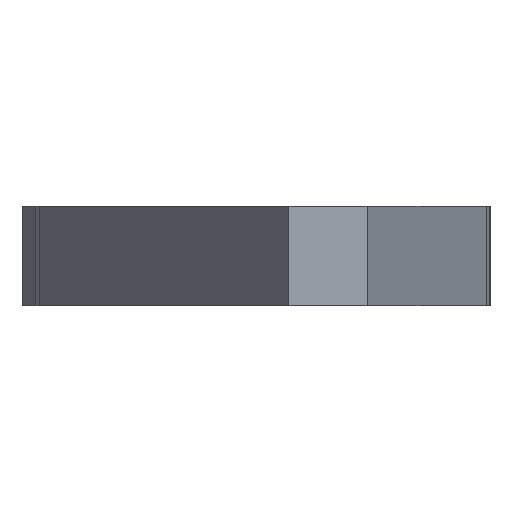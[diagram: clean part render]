
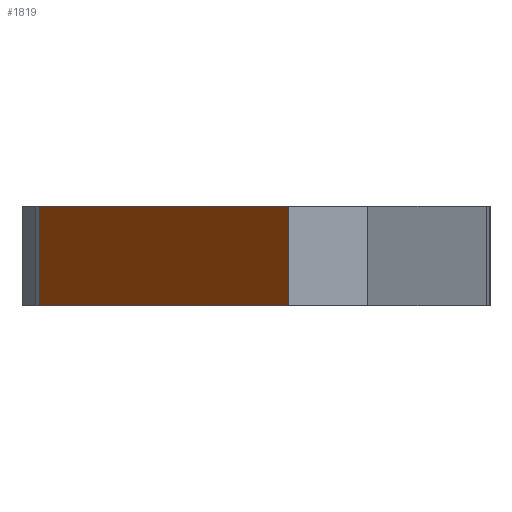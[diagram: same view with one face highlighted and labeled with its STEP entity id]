
A CAD part, left-side view. The second image highlights one B-rep face of the part: STEP entity #1819.
In plain terms, the highlighted planar face has unit normal (-0.258, 0.966, 0).
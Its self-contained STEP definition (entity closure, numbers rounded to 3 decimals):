
#205 = EDGE_CURVE ( 'NONE', #1756, #1052, #453, .T. ) ;
#453 = LINE ( 'NONE', #775, #455 ) ;
#455 = VECTOR ( 'NONE', #1012, 1000. ) ;
#470 = LINE ( 'NONE', #756, #474 ) ;
#474 = VECTOR ( 'NONE', #859, 1000. ) ;
#578 = LINE ( 'NONE', #2450, #581 ) ;
#581 = VECTOR ( 'NONE', #2383, 1000. ) ;
#620 = LINE ( 'NONE', #2336, #623 ) ;
#623 = VECTOR ( 'NONE', #2418, 1000. ) ;
#756 = CARTESIAN_POINT ( 'NONE',  ( -5.212, 4.14, 0. ) ) ;
#769 = CARTESIAN_POINT ( 'NONE',  ( 88.139, 29.054, 0. ) ) ;
#775 = CARTESIAN_POINT ( 'NONE',  ( 44.788, 17.484, 10. ) ) ;
#841 = CARTESIAN_POINT ( 'NONE',  ( -5.212, 4.14, 10. ) ) ;
#859 = DIRECTION ( 'NONE',  ( -0.966, -0.258, 0. ) ) ;
#881 = CARTESIAN_POINT ( 'NONE',  ( -5.212, 4.14, 0. ) ) ;
#1012 = DIRECTION ( 'NONE',  ( -0.966, -0.258, 0. ) ) ;
#1052 = VERTEX_POINT ( 'NONE', #841 ) ;
#1076 = VERTEX_POINT ( 'NONE', #881 ) ;
#1096 = VERTEX_POINT ( 'NONE', #769 ) ;
#1329 = FACE_OUTER_BOUND ( 'NONE', #1641, .T. ) ;
#1342 = EDGE_CURVE ( 'NONE', #1096, #1076, #470, .T. ) ;
#1403 = EDGE_CURVE ( 'NONE', #1052, #1076, #578, .T. ) ;
#1424 = EDGE_CURVE ( 'NONE', #1756, #1096, #620, .T. ) ;
#1535 = ORIENTED_EDGE ( 'NONE', *, *, #1342, .T. ) ;
#1536 = ORIENTED_EDGE ( 'NONE', *, *, #1403, .F. ) ;
#1537 = ORIENTED_EDGE ( 'NONE', *, *, #205, .F. ) ;
#1538 = ORIENTED_EDGE ( 'NONE', *, *, #1424, .T. ) ;
#1641 = EDGE_LOOP ( 'NONE', ( #1535, #1536, #1537, #1538 ) ) ;
#1756 = VERTEX_POINT ( 'NONE', #2307 ) ;
#1819 = ADVANCED_FACE ( 'NONE', ( #1329 ), #2024, .F. ) ;
#1883 = AXIS2_PLACEMENT_3D ( 'NONE', #2393, #2278, #2114 ) ;
#2024 = PLANE ( 'NONE',  #1883 ) ;
#2114 = DIRECTION ( 'NONE',  ( 0.966, 0.258, 0. ) ) ;
#2278 = DIRECTION ( 'NONE',  ( 0.258, -0.966, 0. ) ) ;
#2307 = CARTESIAN_POINT ( 'NONE',  ( 88.139, 29.054, 10. ) ) ;
#2336 = CARTESIAN_POINT ( 'NONE',  ( 88.139, 29.054, 10. ) ) ;
#2383 = DIRECTION ( 'NONE',  ( 0., 0., -1. ) ) ;
#2393 = CARTESIAN_POINT ( 'NONE',  ( -5.212, 4.14, 10. ) ) ;
#2418 = DIRECTION ( 'NONE',  ( 0., 0., -1. ) ) ;
#2450 = CARTESIAN_POINT ( 'NONE',  ( -5.212, 4.14, 10. ) ) ;
